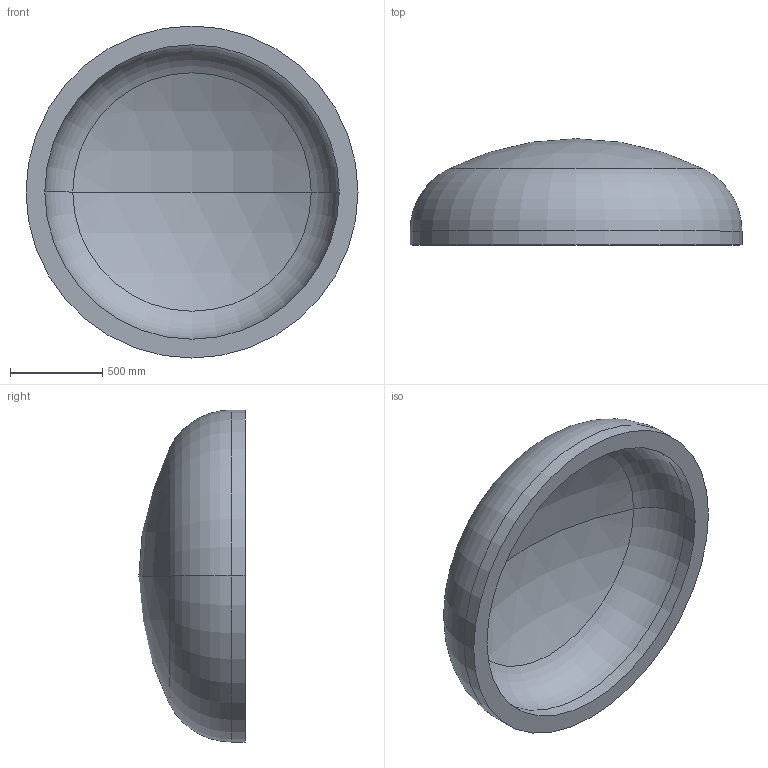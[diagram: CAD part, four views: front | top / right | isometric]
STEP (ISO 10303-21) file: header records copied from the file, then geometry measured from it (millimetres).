
FILE_DESCRIPTION (( 'STEP AP203' ), '1' );
FILE_NAME ('DIN 28013 Korbbogenform_-_Boden DIN 28013 - 1800 x 75 - I - s=102.step', '2016-07-01T12:45:49', ( '' ), ( '' ), 'SwSTEP 2.0', 'SolidWorks 2013', '' );
FILE_SCHEMA (( 'CONFIG_CONTROL_DESIGN' ));
Length unit declared in the file: millimetre
Products named in the file (1): DIN 28013 Korbbogenform_-_Boden DIN 28013 - 1800 x 75 - I - s=102
Bounding box: 1800 x 575.99 x 1800 mm (x, y, z)
Volume: 374630932.4 mm3; surface area: 7911604 mm2
Topology: 1 solids, 1 shells, 13 faces, 24 edges, 14 vertices
Faces by surface type: torus 4, cylinder 4, sphere 4, plane 1
Entity records: 407 total; most frequent: DIRECTION 72, CARTESIAN_POINT 52, ORIENTED_EDGE 48, AXIS2_PLACEMENT_3D 34, EDGE_CURVE 24, CIRCLE 20, VERTEX_POINT 14, EDGE_LOOP 14
